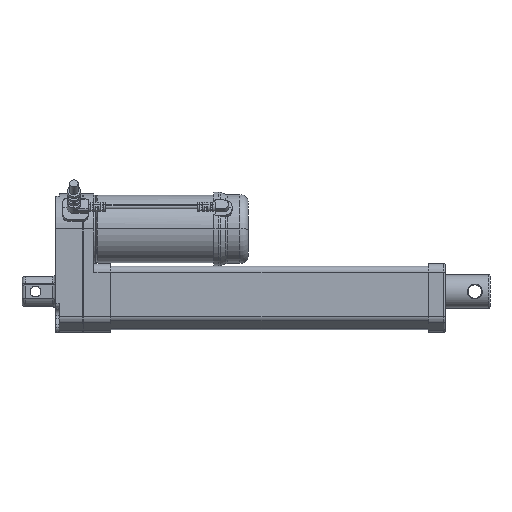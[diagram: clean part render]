
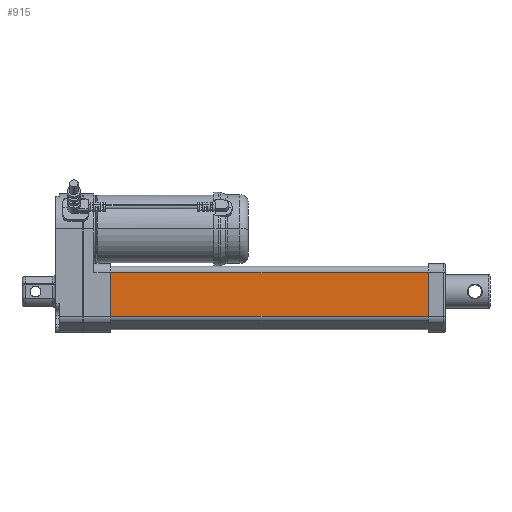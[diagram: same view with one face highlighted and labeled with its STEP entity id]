
A CAD part, top view. The second image highlights one B-rep face of the part: STEP entity #915.
In plain terms, the highlighted planar face has unit normal (0, 0, 1).
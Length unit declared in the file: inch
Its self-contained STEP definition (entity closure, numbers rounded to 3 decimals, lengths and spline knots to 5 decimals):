
#915=ADVANCED_FACE('',(#2110),#2111,.T.);
#2110=FACE_OUTER_BOUND('',#3706,.T.);
#2111=PLANE('',#3707);
#3706=EDGE_LOOP('',(#6530,#6531,#6532,#6533));
#3707=AXIS2_PLACEMENT_3D('',#6534,#6535,#6536);
#6530=ORIENTED_EDGE('',*,*,#9091,.F.);
#6531=ORIENTED_EDGE('',*,*,#9699,.F.);
#6532=ORIENTED_EDGE('',*,*,#9990,.T.);
#6533=ORIENTED_EDGE('',*,*,#9003,.T.);
#6534=CARTESIAN_POINT('',(8.6811,-0.5801,0.76772));
#6535=DIRECTION('',(0.0,-0.0,1.0));
#6536=DIRECTION('',(0.0,1.0,0.0));
#9003=EDGE_CURVE('',#10800,#10797,#10801,.T.);
#9091=EDGE_CURVE('',#10960,#10797,#10962,.T.);
#9699=EDGE_CURVE('',#11969,#10960,#11971,.T.);
#9990=EDGE_CURVE('',#11969,#10800,#12391,.T.);
#10797=VERTEX_POINT('',#13445);
#10800=VERTEX_POINT('',#13448);
#10801=LINE('',#13449,#13450);
#10960=VERTEX_POINT('',#13646);
#10962=LINE('',#13648,#13649);
#11969=VERTEX_POINT('',#15071);
#11971=LINE('',#15073,#15074);
#12391=LINE('',#15609,#15610);
#13445=CARTESIAN_POINT('',(1.27953,0.45276,0.76772));
#13448=CARTESIAN_POINT('',(8.6811,0.45276,0.76772));
#13449=CARTESIAN_POINT('',(8.6811,0.45276,0.76772));
#13450=VECTOR('',#16759,39.37008);
#13646=CARTESIAN_POINT('',(1.27953,-0.5801,0.76772));
#13648=CARTESIAN_POINT('',(1.27953,0.45276,0.76772));
#13649=VECTOR('',#16928,39.37008);
#15071=CARTESIAN_POINT('',(8.6811,-0.5801,0.76772));
#15073=CARTESIAN_POINT('',(8.6811,-0.5801,0.76772));
#15074=VECTOR('',#17841,39.37008);
#15609=CARTESIAN_POINT('',(8.6811,-0.5801,0.76772));
#15610=VECTOR('',#18310,39.37008);
#16759=DIRECTION('',(-1.0,0.0,0.0));
#16928=DIRECTION('',(0.0,1.0,0.0));
#17841=DIRECTION('',(-1.0,0.0,0.0));
#18310=DIRECTION('',(0.0,1.0,0.0));
